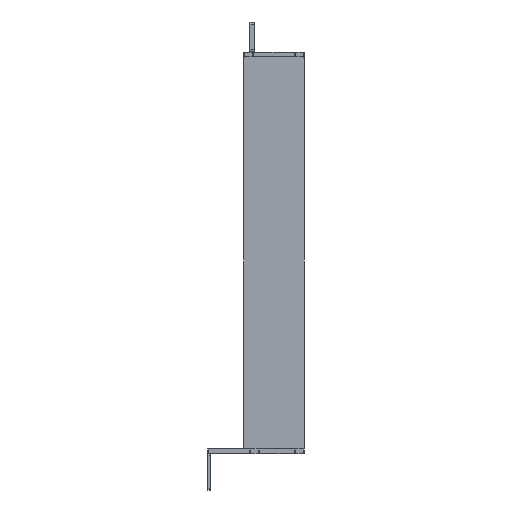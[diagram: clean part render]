
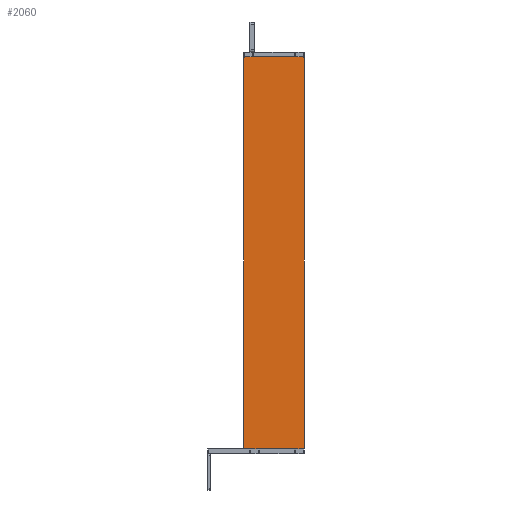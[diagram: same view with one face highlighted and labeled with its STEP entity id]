
A CAD part, left-side view. The second image highlights one B-rep face of the part: STEP entity #2060.
In plain terms, the highlighted planar face has unit normal (-1, 0, 0).
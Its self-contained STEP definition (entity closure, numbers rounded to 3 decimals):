
#54=PLANE('',#2280);
#135=FACE_OUTER_BOUND('',#254,.T.);
#254=EDGE_LOOP('',(#1599,#1600,#1601,#1602,#1603,#1604,#1605,#1606,#1607,
#1608,#1609,#1610,#1611));
#420=LINE('',#3318,#615);
#427=LINE('',#3339,#622);
#433=LINE('',#3365,#628);
#441=LINE('',#3392,#636);
#442=LINE('',#3394,#637);
#443=LINE('',#3396,#638);
#444=LINE('',#3397,#639);
#445=LINE('',#3398,#640);
#446=LINE('',#3399,#641);
#615=VECTOR('',#2684,10.);
#622=VECTOR('',#2701,10.);
#628=VECTOR('',#2725,10.);
#636=VECTOR('',#2753,10.);
#637=VECTOR('',#2756,10.);
#638=VECTOR('',#2759,10.);
#639=VECTOR('',#2760,10.);
#640=VECTOR('',#2761,10.);
#641=VECTOR('',#2762,10.);
#779=CIRCLE('',#2261,1.);
#788=CIRCLE('',#2273,1.);
#789=CIRCLE('',#2275,1.);
#790=CIRCLE('',#2277,1.);
#938=VERTEX_POINT('',#3306);
#941=VERTEX_POINT('',#3314);
#943=VERTEX_POINT('',#3317);
#946=VERTEX_POINT('',#3325);
#952=VERTEX_POINT('',#3337);
#953=VERTEX_POINT('',#3341);
#954=VERTEX_POINT('',#3342);
#961=VERTEX_POINT('',#3361);
#963=VERTEX_POINT('',#3364);
#969=VERTEX_POINT('',#3378);
#970=VERTEX_POINT('',#3379);
#971=VERTEX_POINT('',#3384);
#972=VERTEX_POINT('',#3388);
#1164=EDGE_CURVE('',#941,#943,#420,.T.);
#1175=EDGE_CURVE('',#952,#946,#427,.T.);
#1176=EDGE_CURVE('',#953,#954,#779,.T.);
#1187=EDGE_CURVE('',#961,#963,#433,.T.);
#1194=EDGE_CURVE('',#969,#970,#788,.T.);
#1197=EDGE_CURVE('',#943,#971,#789,.T.);
#1199=EDGE_CURVE('',#972,#938,#790,.T.);
#1201=EDGE_CURVE('',#971,#953,#441,.T.);
#1202=EDGE_CURVE('',#970,#972,#442,.T.);
#1203=EDGE_CURVE('',#946,#941,#443,.T.);
#1204=EDGE_CURVE('',#938,#952,#444,.T.);
#1205=EDGE_CURVE('',#963,#969,#445,.T.);
#1206=EDGE_CURVE('',#954,#961,#446,.T.);
#1599=ORIENTED_EDGE('',*,*,#1176,.F.);
#1600=ORIENTED_EDGE('',*,*,#1201,.F.);
#1601=ORIENTED_EDGE('',*,*,#1197,.F.);
#1602=ORIENTED_EDGE('',*,*,#1164,.F.);
#1603=ORIENTED_EDGE('',*,*,#1203,.F.);
#1604=ORIENTED_EDGE('',*,*,#1175,.F.);
#1605=ORIENTED_EDGE('',*,*,#1204,.F.);
#1606=ORIENTED_EDGE('',*,*,#1199,.F.);
#1607=ORIENTED_EDGE('',*,*,#1202,.F.);
#1608=ORIENTED_EDGE('',*,*,#1194,.F.);
#1609=ORIENTED_EDGE('',*,*,#1205,.F.);
#1610=ORIENTED_EDGE('',*,*,#1187,.F.);
#1611=ORIENTED_EDGE('',*,*,#1206,.F.);
#2060=ADVANCED_FACE('',(#135),#54,.T.);
#2261=AXIS2_PLACEMENT_3D('',#3343,#2704,#2705);
#2273=AXIS2_PLACEMENT_3D('',#3380,#2737,#2738);
#2275=AXIS2_PLACEMENT_3D('',#3385,#2743,#2744);
#2277=AXIS2_PLACEMENT_3D('',#3389,#2748,#2749);
#2280=AXIS2_PLACEMENT_3D('',#3395,#2757,#2758);
#2684=DIRECTION('',(0.,1.,0.));
#2701=DIRECTION('',(0.,1.,0.));
#2704=DIRECTION('center_axis',(1.,0.,0.));
#2705=DIRECTION('ref_axis',(0.,0.707,0.707));
#2725=DIRECTION('',(0.,-1.,0.));
#2737=DIRECTION('center_axis',(1.,0.,0.));
#2738=DIRECTION('ref_axis',(0.,-0.707,0.707));
#2743=DIRECTION('center_axis',(1.,0.,0.));
#2744=DIRECTION('ref_axis',(0.,0.707,-0.707));
#2748=DIRECTION('center_axis',(1.,0.,0.));
#2749=DIRECTION('ref_axis',(0.,-0.707,-0.707));
#2753=DIRECTION('',(0.,0.,1.));
#2756=DIRECTION('',(0.,0.,-1.));
#2757=DIRECTION('center_axis',(-1.,0.,0.));
#2758=DIRECTION('ref_axis',(0.,-1.,0.));
#2759=DIRECTION('',(0.,1.,0.));
#2760=DIRECTION('',(0.,1.,0.));
#2761=DIRECTION('',(0.,-1.,0.));
#2762=DIRECTION('',(0.,-1.,0.));
#3306=CARTESIAN_POINT('',(0.,1.,8.));
#3314=CARTESIAN_POINT('',(0.,89.,8.));
#3317=CARTESIAN_POINT('',(0.,99.,8.));
#3318=CARTESIAN_POINT('',(0.,100.,8.));
#3325=CARTESIAN_POINT('',(0.,76.,8.));
#3337=CARTESIAN_POINT('',(0.,14.,8.));
#3339=CARTESIAN_POINT('',(0.,100.,8.));
#3341=CARTESIAN_POINT('',(0.,100.,657.));
#3342=CARTESIAN_POINT('',(0.,99.,658.));
#3343=CARTESIAN_POINT('Origin',(0.,99.,
657.));
#3361=CARTESIAN_POINT('',(0.,86.,658.));
#3364=CARTESIAN_POINT('',(0.,14.,658.));
#3365=CARTESIAN_POINT('',(0.,0.,658.));
#3378=CARTESIAN_POINT('',(0.,1.,658.));
#3379=CARTESIAN_POINT('',(0.,0.,657.));
#3380=CARTESIAN_POINT('Origin',(0.,1.,657.));
#3384=CARTESIAN_POINT('',(0.,100.,9.));
#3385=CARTESIAN_POINT('Origin',(0.,99.,9.));
#3388=CARTESIAN_POINT('',(0.,0.,9.));
#3389=CARTESIAN_POINT('Origin',(0.,1.,
9.));
#3392=CARTESIAN_POINT('',(0.,100.,658.));
#3394=CARTESIAN_POINT('',(0.,0.,8.));
#3395=CARTESIAN_POINT('Origin',(0.,50.,
333.));
#3396=CARTESIAN_POINT('',(0.,159.5,8.));
#3397=CARTESIAN_POINT('',(0.,159.5,8.));
#3398=CARTESIAN_POINT('',(0.,100.,658.));
#3399=CARTESIAN_POINT('',(0.,100.,658.));
